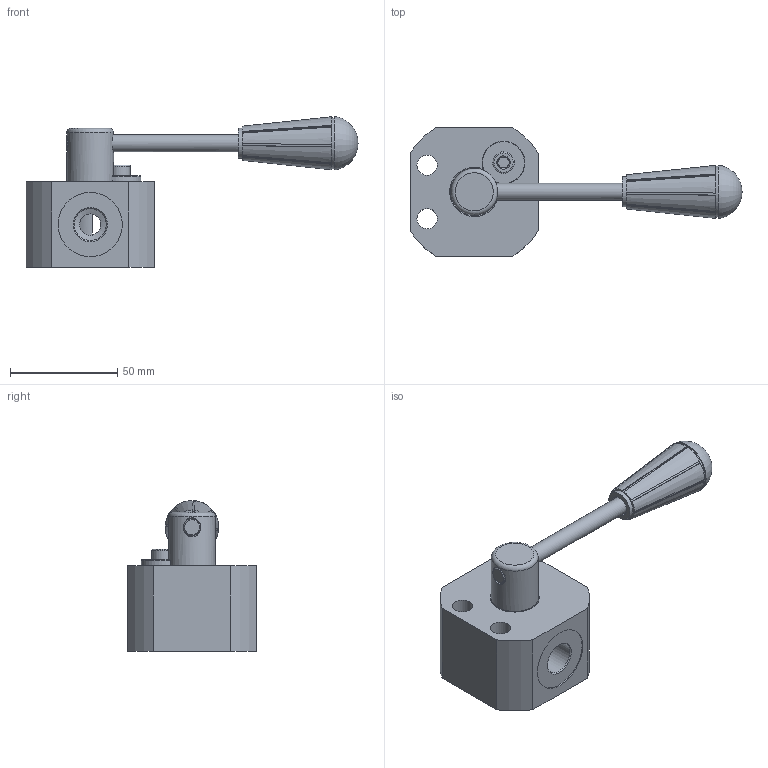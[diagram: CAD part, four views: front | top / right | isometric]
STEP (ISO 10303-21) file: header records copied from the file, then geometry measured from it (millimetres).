
FILE_DESCRIPTION(/* description */ ('Unknown'),/* implementation_level */ '2;1');
FILE_NAME(/* name */ 'AI316DEVAP38',/* time_stamp */ '2024-12-04T07:11:00+01:00',/* author */ ('Unknown'),/* organization */ ('Unknown'),/* preprocessor_version */ 'ST-DEVELOPER v19.4',/* originating_system */ 'Solid Edge',/* authorisation */ 'Unknown');
FILE_SCHEMA (('AUTOMOTIVE_DESIGN {1 0 10303 214 3 1 1}'));
Length unit declared in the file: millimetre
Products named in the file (1): AI316DEVAP38
Bounding box: 155.1 x 60 x 70.45 mm (x, y, z)
Volume: 147585.7 mm3; surface area: 29719.8 mm2
Topology: 2 solids, 2 shells, 126 faces, 308 edges, 197 vertices
Faces by surface type: plane 63, cylinder 32, cone 25, torus 6
Full cylindrical faces by diameter (mm): 8 x1, 8.1 x1, 9.5 x3, 10 x4, 14 x1, 14.95 x6, 20 x1, 21.8 x1, 22 x1, 30 x3
Entity records: 3986 total; most frequent: CARTESIAN_POINT 745, DIRECTION 558, ORIENTED_EDGE 494, EDGE_CURVE 247, AXIS2_PLACEMENT_3D 223, EDGE_LOOP 188, FACE_BOUND 188, VERTEX_POINT 177
